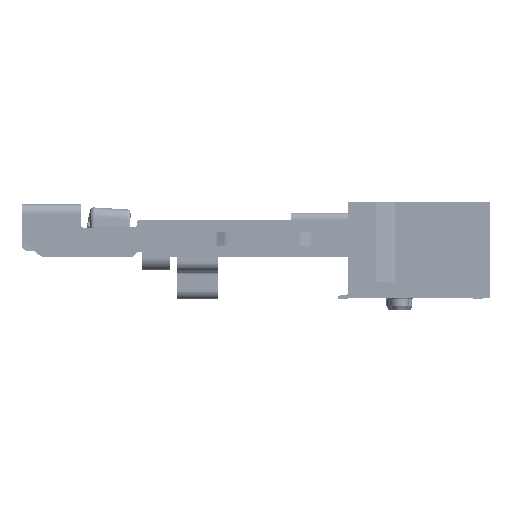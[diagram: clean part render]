
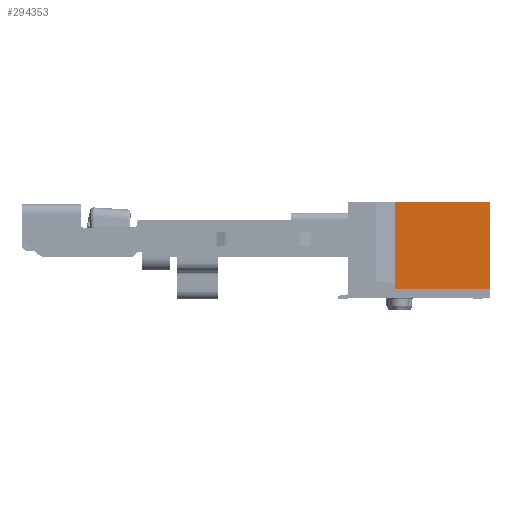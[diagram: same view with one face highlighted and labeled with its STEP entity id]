
A CAD part, left-side view. The second image highlights one B-rep face of the part: STEP entity #294353.
In plain terms, the highlighted planar face has unit normal (-1, 0, 0).
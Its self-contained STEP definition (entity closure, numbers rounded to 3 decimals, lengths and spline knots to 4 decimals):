
#751=DIRECTION('',(0.,0.,-1.));
#752=VECTOR('',#751,4.3187);
#753=CARTESIAN_POINT('',(0.5,5.2,-2.8));
#754=LINE('',#753,#752);
#759=DIRECTION('',(0.,1.,0.));
#760=VECTOR('',#759,5.1);
#761=CARTESIAN_POINT('',(0.5,0.1,-7.45));
#762=LINE('',#761,#760);
#763=DIRECTION('',(0.,0.,1.));
#764=VECTOR('',#763,0.3313);
#765=CARTESIAN_POINT('',(0.5,5.2,-7.45));
#766=LINE('',#765,#764);
#816=DIRECTION('',(0.,1.,0.));
#817=VECTOR('',#816,5.1);
#818=CARTESIAN_POINT('',(0.5,0.1,-2.8));
#819=LINE('',#818,#817);
#123984=DIRECTION('',(0.,0.,1.));
#123985=VECTOR('',#123984,4.65);
#123986=CARTESIAN_POINT('',(0.5,0.1,-7.45));
#123987=LINE('',#123986,#123985);
#227031=CARTESIAN_POINT('',(0.5,5.2,-2.8));
#227033=VERTEX_POINT('',#227031);
#227681=CARTESIAN_POINT('',(0.5,5.2,-7.45));
#227682=VERTEX_POINT('',#227681);
#229503=CARTESIAN_POINT('',(0.5,0.1,-2.8));
#229504=VERTEX_POINT('',#229503);
#229513=CARTESIAN_POINT('',(0.5,0.1,-7.45));
#229514=VERTEX_POINT('',#229513);
#229591=CARTESIAN_POINT('',(0.5,5.2,-7.1187));
#229593=VERTEX_POINT('',#229591);
#294338=CARTESIAN_POINT('',(0.5,0.,-2.8));
#294339=DIRECTION('',(1.,0.,0.));
#294340=DIRECTION('',(0.,1.,0.));
#294341=AXIS2_PLACEMENT_3D('',#294338,#294339,#294340);
#294342=PLANE('',#294341);
#294343=ORIENTED_EDGE('',*,*,#294328,.F.);
#294345=ORIENTED_EDGE('',*,*,#294344,.F.);
#294347=ORIENTED_EDGE('',*,*,#294346,.F.);
#294349=ORIENTED_EDGE('',*,*,#294348,.T.);
#294350=ORIENTED_EDGE('',*,*,#294295,.T.);
#294351=EDGE_LOOP('',(#294343,#294345,#294347,#294349,#294350));
#294352=FACE_OUTER_BOUND('',#294351,.F.);
#294295=EDGE_CURVE('',#227682,#229593,#766,.T.);
#294328=EDGE_CURVE('',#227033,#229593,#754,.T.);
#294344=EDGE_CURVE('',#229504,#227033,#819,.T.);
#294346=EDGE_CURVE('',#229514,#229504,#123987,.T.);
#294348=EDGE_CURVE('',#229514,#227682,#762,.T.);
#294353=ADVANCED_FACE('',(#294352),#294342,.F.);
